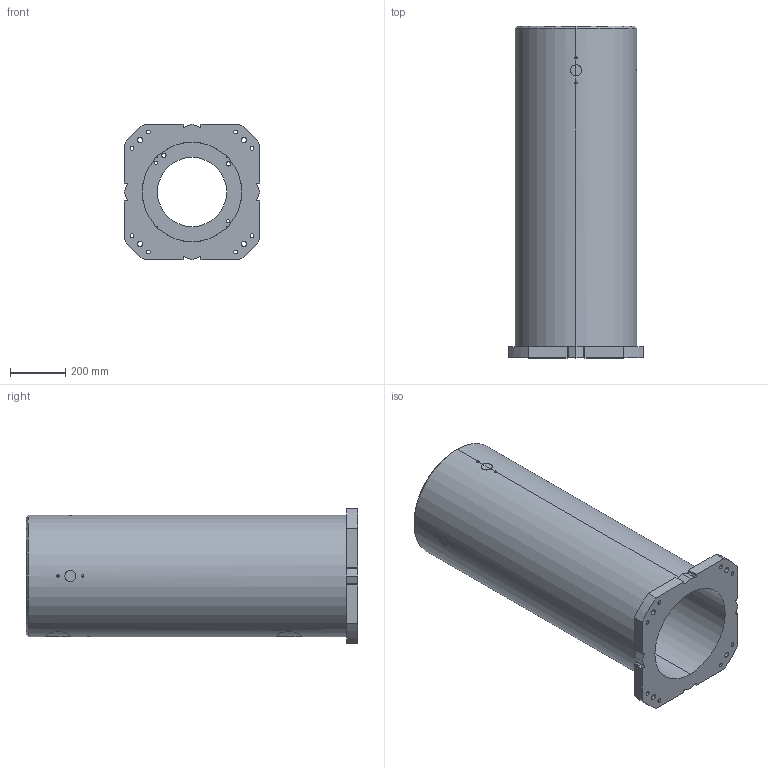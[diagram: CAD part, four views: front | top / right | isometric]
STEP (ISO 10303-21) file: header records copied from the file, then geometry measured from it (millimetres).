
FILE_DESCRIPTION (( 'STEP AP214' ), '1' );
FILE_NAME ('H-1200.STEP', '2025-12-08T06:28:03', ( '' ), ( '' ), 'SwSTEP 2.0', 'SolidWorks 2022', '' );
FILE_SCHEMA (( 'AUTOMOTIVE_DESIGN' ));
Length unit declared in the file: millimetre
Products named in the file (1): H-1200
Bounding box: 490 x 1200 x 490 mm (x, y, z)
Volume: 65134358.8 mm3; surface area: 3409279.1 mm2
Topology: 1 solids, 1 shells, 175 faces, 485 edges, 320 vertices
Faces by surface type: cylinder 117, plane 32, bspline 24, cone 2
Entity records: 11341 total; most frequent: CARTESIAN_POINT 6370, ORIENTED_EDGE 970, DIRECTION 785, EDGE_CURVE 485, VERTEX_POINT 320, AXIS2_PLACEMENT_3D 302, EDGE_LOOP 225, LINE 181
